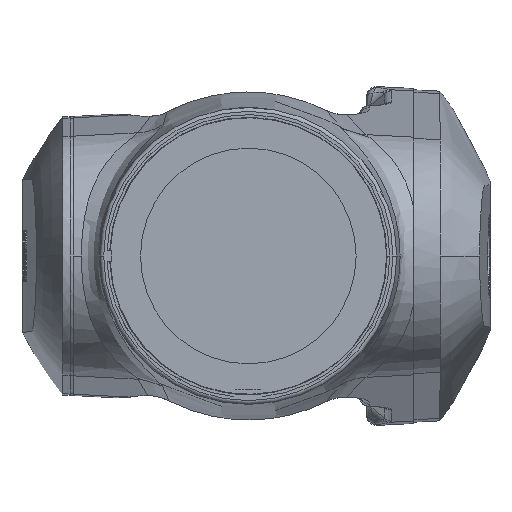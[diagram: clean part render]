
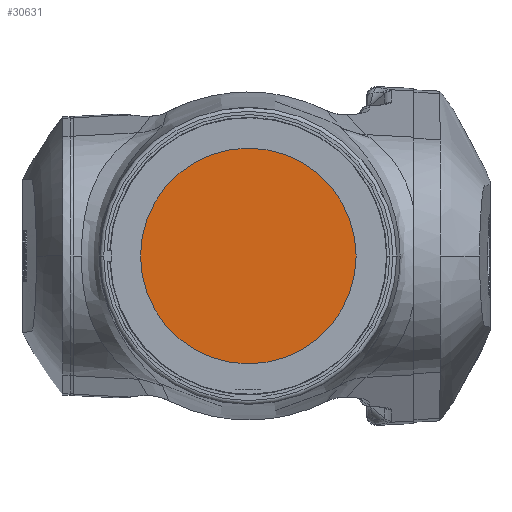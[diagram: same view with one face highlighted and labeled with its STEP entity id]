
A CAD part, left-side view. The second image highlights one B-rep face of the part: STEP entity #30631.
In plain terms, the highlighted planar face has unit normal (-1, 0, 0).
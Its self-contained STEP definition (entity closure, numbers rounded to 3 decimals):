
#890 = VERTEX_POINT ( 'NONE', #19428 ) ;
#2112 = VERTEX_POINT ( 'NONE', #14062 ) ;
#2468 = CIRCLE ( 'NONE', #3774, 85. ) ;
#2933 = DIRECTION ( 'NONE',  ( 0., -1., 0. ) ) ;
#3774 = AXIS2_PLACEMENT_3D ( 'NONE', #20582, #13822, #36500 ) ;
#5459 = EDGE_LOOP ( 'NONE', ( #17350, #11045 ) ) ;
#5805 = CIRCLE ( 'NONE', #38051, 85. ) ;
#6033 = CARTESIAN_POINT ( 'NONE',  ( 117., 0., 2165. ) ) ;
#6866 = AXIS2_PLACEMENT_3D ( 'NONE', #27624, #24335, #11590 ) ;
#11045 = ORIENTED_EDGE ( 'NONE', *, *, #21629, .F. ) ;
#11590 = DIRECTION ( 'NONE',  ( 0., -1., 0. ) ) ;
#13822 = DIRECTION ( 'NONE',  ( 1., 0., 0. ) ) ;
#14062 = CARTESIAN_POINT ( 'NONE',  ( 117., 85., 2165. ) ) ;
#15828 = EDGE_CURVE ( 'NONE', #890, #2112, #5805, .T. ) ;
#17350 = ORIENTED_EDGE ( 'NONE', *, *, #15828, .F. ) ;
#18105 = PLANE ( 'NONE',  #6866 ) ;
#19428 = CARTESIAN_POINT ( 'NONE',  ( 117., -85., 2165. ) ) ;
#20582 = CARTESIAN_POINT ( 'NONE',  ( 117., 0., 2165. ) ) ;
#21629 = EDGE_CURVE ( 'NONE', #2112, #890, #2468, .T. ) ;
#21632 = FACE_OUTER_BOUND ( 'NONE', #5459, .T. ) ;
#24335 = DIRECTION ( 'NONE',  ( -1., 0., 0. ) ) ;
#27624 = CARTESIAN_POINT ( 'NONE',  ( 117., 0., 2260. ) ) ;
#30631 = ADVANCED_FACE ( 'NONE', ( #21632 ), #18105, .T. ) ;
#34279 = DIRECTION ( 'NONE',  ( 1., 0., 0. ) ) ;
#36500 = DIRECTION ( 'NONE',  ( 0., -1., 0. ) ) ;
#38051 = AXIS2_PLACEMENT_3D ( 'NONE', #6033, #34279, #2933 ) ;
